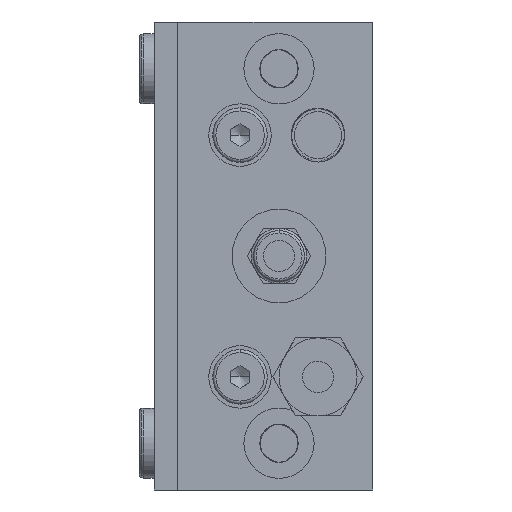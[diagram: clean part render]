
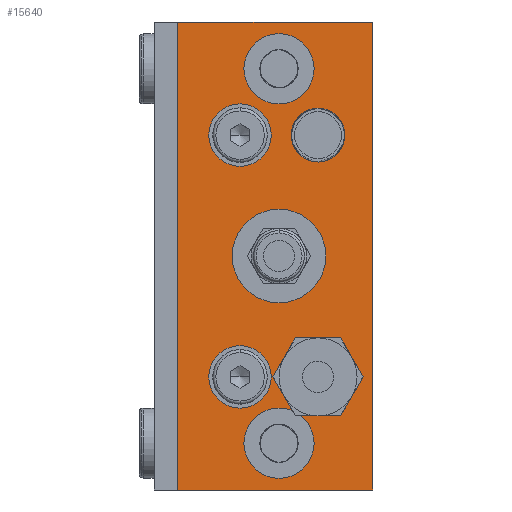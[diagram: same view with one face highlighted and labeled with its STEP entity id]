
A CAD part, front view. The second image highlights one B-rep face of the part: STEP entity #15640.
In plain terms, the highlighted planar face has unit normal (0, -1, 0).
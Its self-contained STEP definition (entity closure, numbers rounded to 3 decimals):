
#10327=CARTESIAN_POINT('',(-16.,-21.,10.5));
#10328=VERTEX_POINT('',#10327);
#10344=CARTESIAN_POINT('',(-16.,-21.,18.5));
#10345=VERTEX_POINT('',#10344);
#10352=CARTESIAN_POINT('',(-16.,-21.,14.5));
#10353=DIRECTION('',(0.0,1.0,0.0));
#10354=DIRECTION('',(0.0,0.0,-1.0));
#10355=AXIS2_PLACEMENT_3D('',#10352,#10353,#10354);
#10356=CIRCLE('',#10355,4.0);
#10357=EDGE_CURVE('',#10328,#10345,#10356,.T.);
#10390=CARTESIAN_POINT('',(-16.,-21.,41.5));
#10391=VERTEX_POINT('',#10390);
#10407=CARTESIAN_POINT('',(-16.,-21.,49.5));
#10408=VERTEX_POINT('',#10407);
#10415=CARTESIAN_POINT('',(-16.,-21.,45.5));
#10416=DIRECTION('',(0.0,1.0,0.0));
#10417=DIRECTION('',(0.0,0.0,-1.0));
#10418=AXIS2_PLACEMENT_3D('',#10415,#10416,#10417);
#10419=CIRCLE('',#10418,4.0);
#10420=EDGE_CURVE('',#10391,#10408,#10419,.T.);
#10525=CARTESIAN_POINT('',(-11.,-21.,24.0));
#10526=VERTEX_POINT('',#10525);
#10542=CARTESIAN_POINT('',(-11.,-21.,36.0));
#10543=VERTEX_POINT('',#10542);
#10550=CARTESIAN_POINT('',(-11.,-21.,30.0));
#10551=DIRECTION('',(0.0,1.0,0.0));
#10552=DIRECTION('',(0.0,0.0,-1.0));
#10553=AXIS2_PLACEMENT_3D('',#10550,#10551,#10552);
#10554=CIRCLE('',#10553,6.);
#10555=EDGE_CURVE('',#10526,#10543,#10554,.T.);
#10651=CARTESIAN_POINT('',(-11.,-21.0,1.5));
#10652=VERTEX_POINT('',#10651);
#10668=CARTESIAN_POINT('',(-11.,-21.,10.5));
#10669=VERTEX_POINT('',#10668);
#10676=CARTESIAN_POINT('',(-11.,-21.,6.));
#10677=DIRECTION('',(0.0,1.0,0.0));
#10678=DIRECTION('',(0.0,0.0,-1.0));
#10679=AXIS2_PLACEMENT_3D('',#10676,#10677,#10678);
#10680=CIRCLE('',#10679,4.5);
#10681=EDGE_CURVE('',#10652,#10669,#10680,.T.);
#10777=CARTESIAN_POINT('',(-11.,-21.,49.5));
#10778=VERTEX_POINT('',#10777);
#10794=CARTESIAN_POINT('',(-11.,-21.,58.5));
#10795=VERTEX_POINT('',#10794);
#10802=CARTESIAN_POINT('',(-11.,-21.,54.0));
#10803=DIRECTION('',(0.0,1.0,0.0));
#10804=DIRECTION('',(0.0,0.0,-1.0));
#10805=AXIS2_PLACEMENT_3D('',#10802,#10803,#10804);
#10806=CIRCLE('',#10805,4.5);
#10807=EDGE_CURVE('',#10778,#10795,#10806,.T.);
#10929=CARTESIAN_POINT('',(-6.,-21.,48.959));
#10930=VERTEX_POINT('',#10929);
#10937=CARTESIAN_POINT('',(-6.,-21.,42.041));
#10938=VERTEX_POINT('',#10937);
#10939=CARTESIAN_POINT('',(-6.,-21.,45.5));
#10940=DIRECTION('',(0.0,1.0,0.0));
#10941=DIRECTION('',(0.0,0.0,-1.0));
#10942=AXIS2_PLACEMENT_3D('',#10939,#10940,#10941);
#10943=CIRCLE('',#10942,3.459);
#10944=EDGE_CURVE('',#10938,#10930,#10943,.T.);
#12676=CARTESIAN_POINT('',(-1.2,-21.,14.5));
#12677=VERTEX_POINT('',#12676);
#12686=CARTESIAN_POINT('',(-10.8,-21.,14.5));
#12687=VERTEX_POINT('',#12686);
#12688=CARTESIAN_POINT('',(-6.,-21.,14.5));
#12689=DIRECTION('',(0.0,1.0,0.0));
#12690=DIRECTION('',(1.0,0.0,0.0));
#12691=AXIS2_PLACEMENT_3D('',#12688,#12689,#12690);
#12692=CIRCLE('',#12691,4.8);
#12693=EDGE_CURVE('',#12687,#12677,#12692,.T.);
#15353=CARTESIAN_POINT('',(-6.,-21.,14.5));
#15354=DIRECTION('',(0.0,1.0,0.0));
#15355=DIRECTION('',(1.0,0.0,0.0));
#15356=AXIS2_PLACEMENT_3D('',#15353,#15354,#15355);
#15357=CIRCLE('',#15356,4.8);
#15358=EDGE_CURVE('',#12677,#12687,#15357,.T.);
#15537=CARTESIAN_POINT('',(-24.,-21.,0.));
#15538=DIRECTION('',(0.0,-1.0,0.0));
#15539=DIRECTION('',(0.0,0.0,-1.0));
#15540=AXIS2_PLACEMENT_3D('',#15537,#15538,#15539);
#15541=PLANE('',#15540);
#15542=CARTESIAN_POINT('',(1.,-21.0,0.));
#15543=VERTEX_POINT('',#15542);
#15544=CARTESIAN_POINT('',(1.,-21.,60.0));
#15545=VERTEX_POINT('',#15544);
#15546=CARTESIAN_POINT('',(1.,-21.0,0.));
#15547=DIRECTION('',(0.0,0.0,1.0));
#15548=VECTOR('',#15547,60.);
#15549=LINE('',#15546,#15548);
#15550=EDGE_CURVE('',#15543,#15545,#15549,.T.);
#15551=ORIENTED_EDGE('',*,*,#15550,.T.);
#15552=CARTESIAN_POINT('',(-24.,-21.,60.0));
#15553=VERTEX_POINT('',#15552);
#15554=CARTESIAN_POINT('',(-24.,-21.,60.0));
#15555=DIRECTION('',(1.0,0.0,0.0));
#15556=VECTOR('',#15555,25.0);
#15557=LINE('',#15554,#15556);
#15558=EDGE_CURVE('',#15553,#15545,#15557,.T.);
#15559=ORIENTED_EDGE('',*,*,#15558,.F.);
#15560=CARTESIAN_POINT('',(-24.,-21.,0.));
#15561=VERTEX_POINT('',#15560);
#15562=CARTESIAN_POINT('',(-24.,-21.,0.));
#15563=DIRECTION('',(0.0,0.0,1.0));
#15564=VECTOR('',#15563,60.);
#15565=LINE('',#15562,#15564);
#15566=EDGE_CURVE('',#15561,#15553,#15565,.T.);
#15567=ORIENTED_EDGE('',*,*,#15566,.F.);
#15568=CARTESIAN_POINT('',(-24.,-21.,0.));
#15569=DIRECTION('',(1.0,0.0,0.0));
#15570=VECTOR('',#15569,25.0);
#15571=LINE('',#15568,#15570);
#15572=EDGE_CURVE('',#15561,#15543,#15571,.T.);
#15573=ORIENTED_EDGE('',*,*,#15572,.T.);
#15574=EDGE_LOOP('',(#15551,#15559,#15567,#15573));
#15575=FACE_OUTER_BOUND('',#15574,.T.);
#15576=ORIENTED_EDGE('',*,*,#10357,.T.);
#15577=CARTESIAN_POINT('',(-16.,-21.,14.5));
#15578=DIRECTION('',(0.0,1.0,0.0));
#15579=DIRECTION('',(0.0,0.0,-1.0));
#15580=AXIS2_PLACEMENT_3D('',#15577,#15578,#15579);
#15581=CIRCLE('',#15580,4.0);
#15582=EDGE_CURVE('',#10345,#10328,#15581,.T.);
#15583=ORIENTED_EDGE('',*,*,#15582,.T.);
#15584=EDGE_LOOP('',(#15576,#15583));
#15585=FACE_BOUND('',#15584,.T.);
#15586=ORIENTED_EDGE('',*,*,#10420,.T.);
#15587=CARTESIAN_POINT('',(-16.,-21.,45.5));
#15588=DIRECTION('',(0.0,1.0,0.0));
#15589=DIRECTION('',(0.0,0.0,-1.0));
#15590=AXIS2_PLACEMENT_3D('',#15587,#15588,#15589);
#15591=CIRCLE('',#15590,4.0);
#15592=EDGE_CURVE('',#10408,#10391,#15591,.T.);
#15593=ORIENTED_EDGE('',*,*,#15592,.T.);
#15594=EDGE_LOOP('',(#15586,#15593));
#15595=FACE_BOUND('',#15594,.T.);
#15596=ORIENTED_EDGE('',*,*,#10555,.T.);
#15597=CARTESIAN_POINT('',(-11.,-21.,30.0));
#15598=DIRECTION('',(0.0,1.0,0.0));
#15599=DIRECTION('',(0.0,0.0,-1.0));
#15600=AXIS2_PLACEMENT_3D('',#15597,#15598,#15599);
#15601=CIRCLE('',#15600,6.);
#15602=EDGE_CURVE('',#10543,#10526,#15601,.T.);
#15603=ORIENTED_EDGE('',*,*,#15602,.T.);
#15604=EDGE_LOOP('',(#15596,#15603));
#15605=FACE_BOUND('',#15604,.T.);
#15606=ORIENTED_EDGE('',*,*,#10681,.T.);
#15607=CARTESIAN_POINT('',(-11.,-21.,6.));
#15608=DIRECTION('',(0.0,1.0,0.0));
#15609=DIRECTION('',(0.0,0.0,-1.0));
#15610=AXIS2_PLACEMENT_3D('',#15607,#15608,#15609);
#15611=CIRCLE('',#15610,4.5);
#15612=EDGE_CURVE('',#10669,#10652,#15611,.T.);
#15613=ORIENTED_EDGE('',*,*,#15612,.T.);
#15614=EDGE_LOOP('',(#15606,#15613));
#15615=FACE_BOUND('',#15614,.T.);
#15616=ORIENTED_EDGE('',*,*,#10807,.T.);
#15617=CARTESIAN_POINT('',(-11.,-21.,54.0));
#15618=DIRECTION('',(0.0,1.0,0.0));
#15619=DIRECTION('',(0.0,0.0,-1.0));
#15620=AXIS2_PLACEMENT_3D('',#15617,#15618,#15619);
#15621=CIRCLE('',#15620,4.5);
#15622=EDGE_CURVE('',#10795,#10778,#15621,.T.);
#15623=ORIENTED_EDGE('',*,*,#15622,.T.);
#15624=EDGE_LOOP('',(#15616,#15623));
#15625=FACE_BOUND('',#15624,.T.);
#15626=ORIENTED_EDGE('',*,*,#10944,.T.);
#15627=CARTESIAN_POINT('',(-6.,-21.,45.5));
#15628=DIRECTION('',(0.0,1.0,0.0));
#15629=DIRECTION('',(0.0,0.0,-1.0));
#15630=AXIS2_PLACEMENT_3D('',#15627,#15628,#15629);
#15631=CIRCLE('',#15630,3.459);
#15632=EDGE_CURVE('',#10930,#10938,#15631,.T.);
#15633=ORIENTED_EDGE('',*,*,#15632,.T.);
#15634=EDGE_LOOP('',(#15626,#15633));
#15635=FACE_BOUND('',#15634,.T.);
#15636=ORIENTED_EDGE('',*,*,#12693,.T.);
#15637=ORIENTED_EDGE('',*,*,#15358,.T.);
#15638=EDGE_LOOP('',(#15636,#15637));
#15639=FACE_BOUND('',#15638,.T.);
#15640=ADVANCED_FACE('',(#15575,#15585,#15595,#15605,#15615,#15625,#15635,#15639),#15541,.T.);
